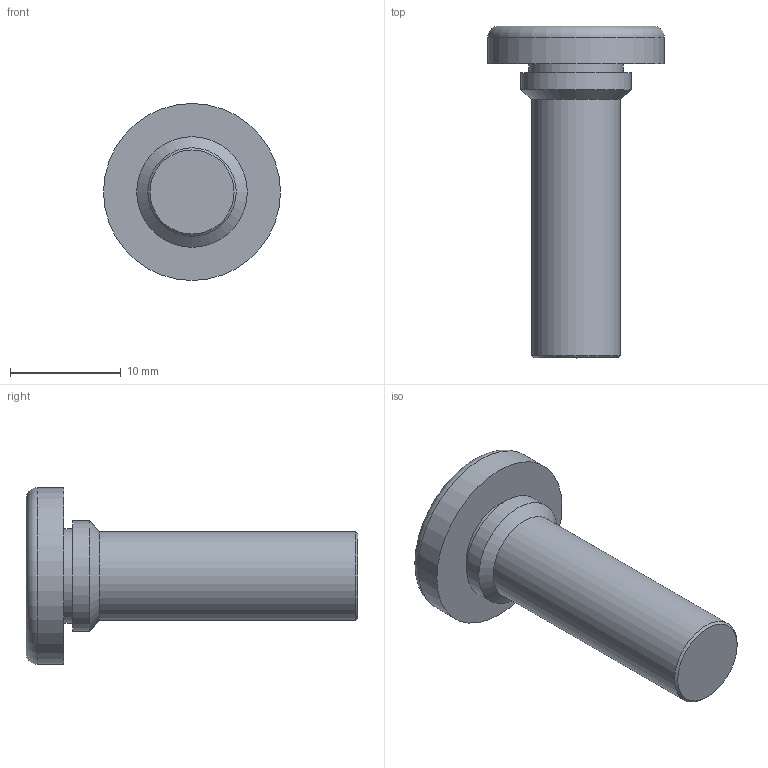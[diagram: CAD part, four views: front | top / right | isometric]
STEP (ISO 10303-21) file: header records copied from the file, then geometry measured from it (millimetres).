
FILE_DESCRIPTION(/* description */ (''),/* implementation_level */ '2;1');
FILE_NAME(/* name */ 'C:\Users\keval.kumar\Desktop\Fastit\Press Screw\M8\Press Screw_M8 x30.stp',/* time_stamp */ '2024-03-13T14:08:57+06:00',/* author */ ('keval.kumar'),/* organization */ (''),/* preprocessor_version */ 'ST-DEVELOPER v18.1',/* originating_system */ 'Autodesk Inventor 2022',/* authorisation */ '');
FILE_SCHEMA (('AUTOMOTIVE_DESIGN { 1 0 10303 214 3 1 1 }'));
Length unit declared in the file: millimetre
Products named in the file (1): Press Screw_M8 x30
Bounding box: 16 x 30 x 16 mm (x, y, z)
Volume: 2070.4 mm3; surface area: 1258.7 mm2
Topology: 1 solids, 1 shells, 11 faces, 19 edges, 12 vertices
Faces by surface type: cylinder 4, plane 4, cone 2, torus 1
Full cylindrical faces by diameter (mm): 8 x1, 8.5 x1, 10 x1, 16 x1
Entity records: 313 total; most frequent: DIRECTION 56, CARTESIAN_POINT 43, ORIENTED_EDGE 38, AXIS2_PLACEMENT_3D 25, EDGE_CURVE 19, EDGE_LOOP 13, CIRCLE 13, VERTEX_POINT 12
